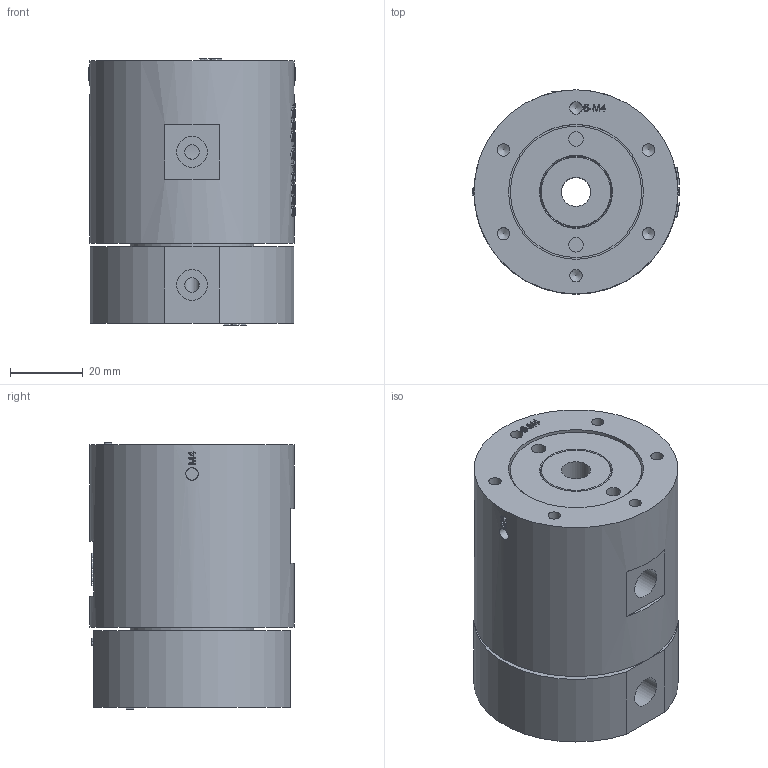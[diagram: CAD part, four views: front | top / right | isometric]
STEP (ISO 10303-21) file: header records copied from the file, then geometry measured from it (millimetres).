
FILE_DESCRIPTION(/* description */ (''),/* implementation_level */ '2;1');
FILE_NAME(/* name */ 'HQ0201.stp',/* time_stamp */ '2025-02-14T11:13:02+08:00',/* author */ (''),/* organization */ (''),/* preprocessor_version */ 'ST-DEVELOPER v16.7',/* originating_system */ 'SIEMENS PLM Software NX 12.0',/* authorisation */ '');
FILE_SCHEMA (('AUTOMOTIVE_DESIGN { 1 0 10303 214 3 1 1 1 }'));
Length unit declared in the file: millimetre
Products named in the file (1): HX0540E8A2D8nfq2
Bounding box: 57 x 56 x 73 mm (x, y, z)
Volume: 166001.9 mm3; surface area: 29407.5 mm2
Topology: 1 solids, 2 shells, 1051 faces, 2855 edges, 1905 vertices
Faces by surface type: extrusion 502, plane 426, cylinder 56, bspline 54, cone 13
Full cylindrical faces by diameter (mm): 3.4 x12, 4 x8, 4.1 x2, 4.2 x2, 8 x1, 8.5 x4, 18 x1, 19 x1, 29 x1, 34 x1, 36 x1, 37 x1, 56 x1
Entity records: 40067 total; most frequent: CARTESIAN_POINT 17966, ORIENTED_EDGE 5516, EDGE_CURVE 2758, B_SPLINE_CURVE_WITH_KNOTS 2558, DIRECTION 2438, VERTEX_POINT 1874, EDGE_LOOP 1202, ADVANCED_FACE 1048
